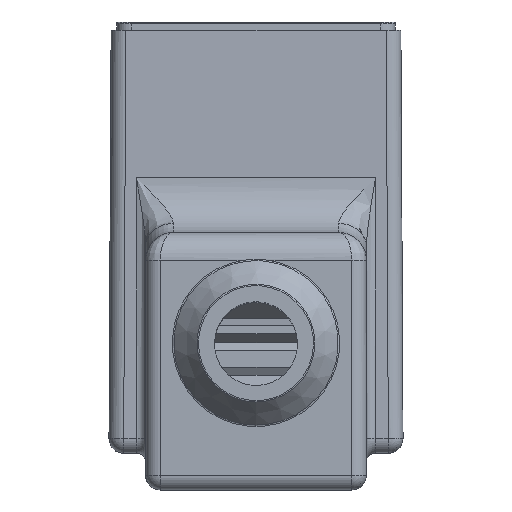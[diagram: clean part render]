
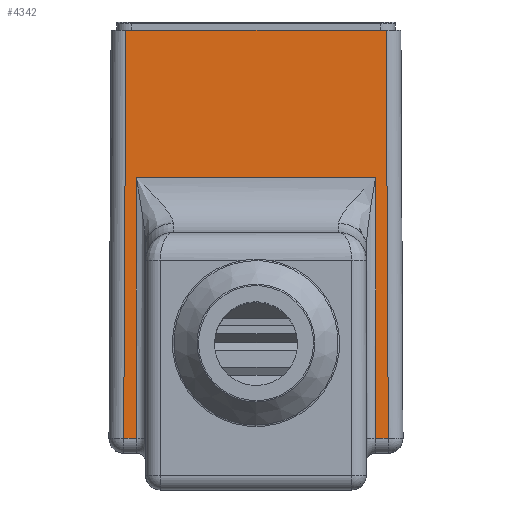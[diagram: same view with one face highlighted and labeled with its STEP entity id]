
A CAD part, left-side view. The second image highlights one B-rep face of the part: STEP entity #4342.
In plain terms, the highlighted planar face has unit normal (-1, 0, 0.005).
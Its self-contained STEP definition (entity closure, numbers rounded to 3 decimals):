
#3323=CARTESIAN_POINT('',(-7.88,7.08,23.));
#3324=VERTEX_POINT('',#3323);
#3332=CARTESIAN_POINT('',(-7.88,-7.08,23.));
#3333=VERTEX_POINT('',#3332);
#3334=CARTESIAN_POINT('',(-7.88,-7.08,23.));
#3335=DIRECTION('',(0.0,1.0,0.0));
#3336=VECTOR('',#3335,14.159);
#3337=LINE('',#3334,#3336);
#3338=EDGE_CURVE('',#3333,#3324,#3337,.T.);
#3622=CARTESIAN_POINT('',(-7.922,6.5,14.984));
#3623=VERTEX_POINT('',#3622);
#3804=CARTESIAN_POINT('',(-7.922,-6.5,14.984));
#3805=VERTEX_POINT('',#3804);
#3873=CARTESIAN_POINT('',(-7.996,6.5,0.804));
#3874=VERTEX_POINT('',#3873);
#3875=CARTESIAN_POINT('',(-7.922,6.5,14.984));
#3876=DIRECTION('',(-0.005,0.0,-1.));
#3877=VECTOR('',#3876,14.18);
#3878=LINE('',#3875,#3877);
#3879=EDGE_CURVE('',#3623,#3874,#3878,.T.);
#3897=CARTESIAN_POINT('',(-7.996,-6.5,0.804));
#3898=VERTEX_POINT('',#3897);
#3926=CARTESIAN_POINT('',(-7.996,-6.5,0.804));
#3927=DIRECTION('',(0.005,0.0,1.));
#3928=VECTOR('',#3927,14.18);
#3929=LINE('',#3926,#3928);
#3930=EDGE_CURVE('',#3898,#3805,#3929,.T.);
#3942=CARTESIAN_POINT('',(-7.996,-7.196,0.804));
#3943=VERTEX_POINT('',#3942);
#3976=CARTESIAN_POINT('',(-7.922,-6.5,14.984));
#3977=DIRECTION('',(0.0,1.0,0.0));
#3978=VECTOR('',#3977,13.);
#3979=LINE('',#3976,#3978);
#3980=EDGE_CURVE('',#3805,#3623,#3979,.T.);
#4089=CARTESIAN_POINT('',(-7.996,7.196,0.804));
#4090=VERTEX_POINT('',#4089);
#4152=CARTESIAN_POINT('',(-7.996,6.5,0.804));
#4153=DIRECTION('',(0.0,1.0,0.0));
#4154=VECTOR('',#4153,0.696);
#4155=LINE('',#4152,#4154);
#4156=EDGE_CURVE('',#3874,#4090,#4155,.T.);
#4174=CARTESIAN_POINT('',(-7.996,7.196,0.804));
#4175=DIRECTION('',(0.005,-0.005,1.));
#4176=VECTOR('',#4175,22.196);
#4177=LINE('',#4174,#4176);
#4178=EDGE_CURVE('',#4090,#3324,#4177,.T.);
#4277=CARTESIAN_POINT('',(-7.88,-7.08,23.0));
#4278=DIRECTION('',(-0.005,-0.005,-1.));
#4279=VECTOR('',#4278,22.196);
#4280=LINE('',#4277,#4279);
#4281=EDGE_CURVE('',#3333,#3943,#4280,.T.);
#4306=CARTESIAN_POINT('',(-7.996,-7.196,0.804));
#4307=DIRECTION('',(0.0,1.0,0.0));
#4308=VECTOR('',#4307,0.696);
#4309=LINE('',#4306,#4308);
#4310=EDGE_CURVE('',#3943,#3898,#4309,.T.);
#4327=CARTESIAN_POINT('',(-8.,-8.,0.0));
#4328=DIRECTION('',(-1.,0.,0.005));
#4329=DIRECTION('',(0.0,-1.0,0.0));
#4330=AXIS2_PLACEMENT_3D('',#4327,#4328,#4329);
#4331=PLANE('',#4330);
#4332=ORIENTED_EDGE('',*,*,#4178,.F.);
#4333=ORIENTED_EDGE('',*,*,#4156,.F.);
#4334=ORIENTED_EDGE('',*,*,#3879,.F.);
#4335=ORIENTED_EDGE('',*,*,#3980,.F.);
#4336=ORIENTED_EDGE('',*,*,#3930,.F.);
#4337=ORIENTED_EDGE('',*,*,#4310,.F.);
#4338=ORIENTED_EDGE('',*,*,#4281,.F.);
#4339=ORIENTED_EDGE('',*,*,#3338,.T.);
#4340=EDGE_LOOP('',(#4332,#4333,#4334,#4335,#4336,#4337,#4338,#4339));
#4341=FACE_OUTER_BOUND('',#4340,.T.);
#4342=ADVANCED_FACE('',(#4341),#4331,.T.);
